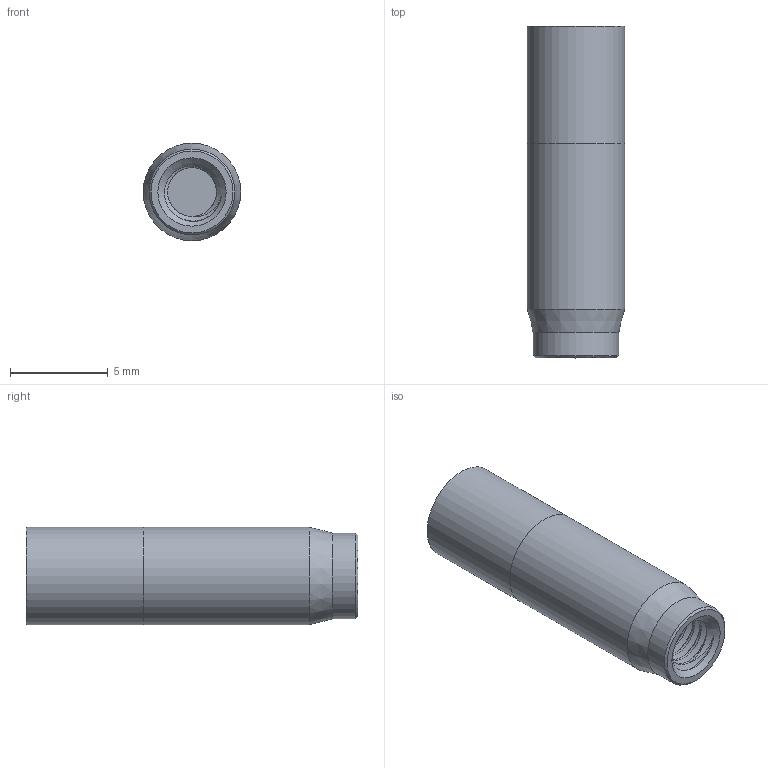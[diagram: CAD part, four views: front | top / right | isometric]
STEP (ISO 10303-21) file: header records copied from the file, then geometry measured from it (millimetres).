
FILE_DESCRIPTION (( 'STEP AP214' ), '1' );
FILE_NAME ('DAP-5.STEP', '2018-10-09T17:56:49', ( '' ), ( '' ), 'SwSTEP 2.0', 'SolidWorks 2017', '' );
FILE_SCHEMA (( 'AUTOMOTIVE_DESIGN' ));
Length unit declared in the file: millimetre
Products named in the file (1): DAP-5
Bounding box: 5 x 17.01 x 5 mm (x, y, z)
Volume: 266.4 mm3; surface area: 435.7 mm2
Topology: 2 solids, 2 shells, 90 faces, 232 edges, 154 vertices
Faces by surface type: plane 44, cylinder 40, cone 3, bspline 3
Full cylindrical faces by diameter (mm): 2.5 x6, 3.1 x1, 4.4 x1, 5 x2
Entity records: 3732 total; most frequent: CARTESIAN_POINT 1727, ORIENTED_EDGE 406, DIRECTION 302, EDGE_CURVE 203, VERTEX_POINT 139, LINE 114, VECTOR 114, EDGE_LOOP 102
